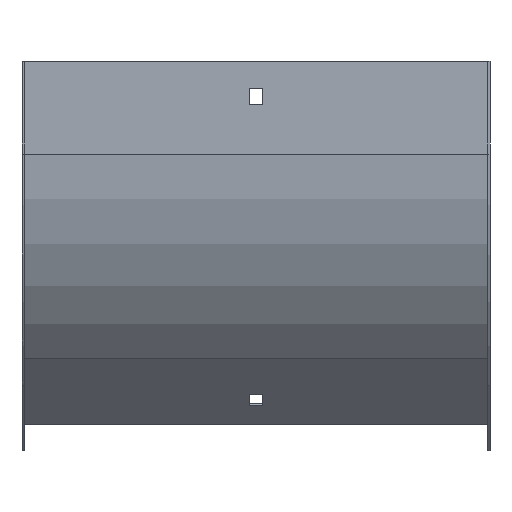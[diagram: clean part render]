
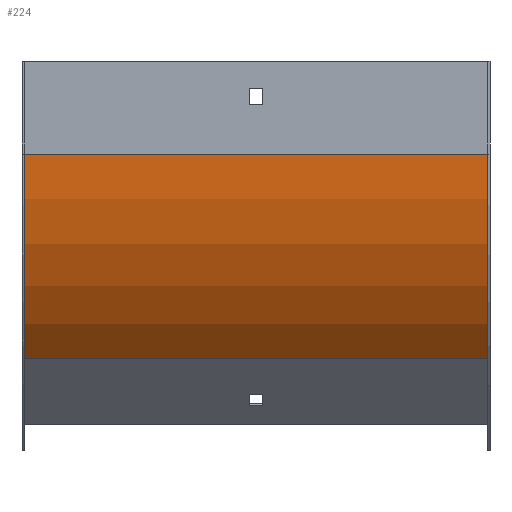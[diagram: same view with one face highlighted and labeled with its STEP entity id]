
A CAD part, front view. The second image highlights one B-rep face of the part: STEP entity #224.
In plain terms, the highlighted cylindrical face has radius 125 mm (diameter 250 mm), a partial arc.
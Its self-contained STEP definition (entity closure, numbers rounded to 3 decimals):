
#4 = AXIS2_PLACEMENT_3D ( 'NONE', #731, #185, #802 ) ;
#7 = EDGE_CURVE ( 'NONE', #474, #853, #240, .T. ) ;
#69 = DIRECTION ( 'NONE',  ( 0., 0., 1. ) ) ;
#130 = EDGE_LOOP ( 'NONE', ( #554, #446, #396, #841 ) ) ;
#145 = CARTESIAN_POINT ( 'NONE',  ( 100., 35.612, -128.388 ) ) ;
#175 = EDGE_CURVE ( 'NONE', #474, #305, #316, .T. ) ;
#180 = DIRECTION ( 'NONE',  ( -1., 0., 0. ) ) ;
#185 = DIRECTION ( 'NONE',  ( -1., 0., 0. ) ) ;
#224 = ADVANCED_FACE ( 'NONE', ( #551 ), #411, .T. ) ;
#240 = LINE ( 'NONE', #832, #436 ) ;
#273 = AXIS2_PLACEMENT_3D ( 'NONE', #820, #494, #69 ) ;
#282 = DIRECTION ( 'NONE',  ( -1., 0., 0. ) ) ;
#305 = VERTEX_POINT ( 'NONE', #611 ) ;
#316 = CIRCLE ( 'NONE', #686, 125. ) ;
#393 = CIRCLE ( 'NONE', #4, 125. ) ;
#396 = ORIENTED_EDGE ( 'NONE', *, *, #175, .T. ) ;
#398 = CARTESIAN_POINT ( 'NONE',  ( 100., 124., -40. ) ) ;
#411 = CYLINDRICAL_SURFACE ( 'NONE', #273, 125. ) ;
#420 = CARTESIAN_POINT ( 'NONE',  ( -100., 35.612, -128.388 ) ) ;
#434 = CARTESIAN_POINT ( 'NONE',  ( -100., -1., -40. ) ) ;
#436 = VECTOR ( 'NONE', #569, 1000. ) ;
#446 = ORIENTED_EDGE ( 'NONE', *, *, #7, .F. ) ;
#474 = VERTEX_POINT ( 'NONE', #145 ) ;
#494 = DIRECTION ( 'NONE',  ( -1., 0., 0. ) ) ;
#551 = FACE_OUTER_BOUND ( 'NONE', #130, .T. ) ;
#554 = ORIENTED_EDGE ( 'NONE', *, *, #729, .F. ) ;
#557 = CARTESIAN_POINT ( 'NONE',  ( 101., -1., -40. ) ) ;
#569 = DIRECTION ( 'NONE',  ( -1., 0., 0. ) ) ;
#584 = DIRECTION ( 'NONE',  ( 0., 0., -1. ) ) ;
#611 = CARTESIAN_POINT ( 'NONE',  ( 100., -1., -40. ) ) ;
#662 = VERTEX_POINT ( 'NONE', #434 ) ;
#686 = AXIS2_PLACEMENT_3D ( 'NONE', #398, #180, #584 ) ;
#725 = LINE ( 'NONE', #557, #813 ) ;
#729 = EDGE_CURVE ( 'NONE', #853, #662, #393, .T. ) ;
#731 = CARTESIAN_POINT ( 'NONE',  ( -100., 124., -40. ) ) ;
#793 = EDGE_CURVE ( 'NONE', #305, #662, #725, .T. ) ;
#802 = DIRECTION ( 'NONE',  ( 0., 0., -1. ) ) ;
#813 = VECTOR ( 'NONE', #282, 1000. ) ;
#820 = CARTESIAN_POINT ( 'NONE',  ( 101., 124., -40. ) ) ;
#832 = CARTESIAN_POINT ( 'NONE',  ( 101., 35.612, -128.388 ) ) ;
#841 = ORIENTED_EDGE ( 'NONE', *, *, #793, .T. ) ;
#853 = VERTEX_POINT ( 'NONE', #420 ) ;
